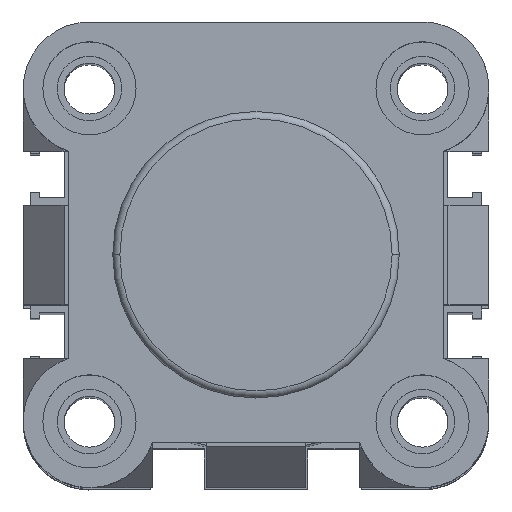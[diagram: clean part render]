
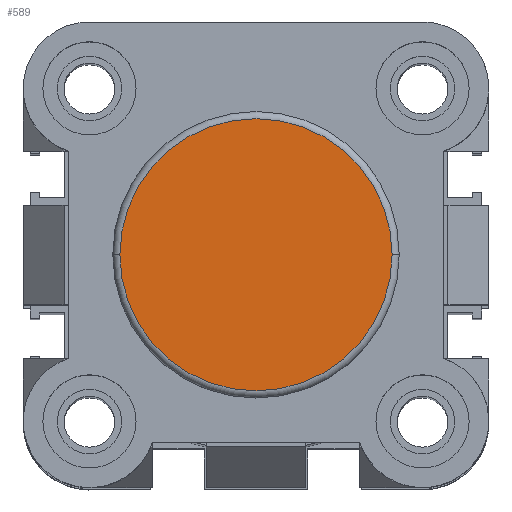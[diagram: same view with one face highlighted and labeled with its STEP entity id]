
A CAD part, top view. The second image highlights one B-rep face of the part: STEP entity #589.
In plain terms, the highlighted planar face has unit normal (0, 0, 1).
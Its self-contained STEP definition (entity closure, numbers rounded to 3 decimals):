
#589 = ADVANCED_FACE ( 'NONE', ( #7373 ), #12430, .T. ) ;
#852 = VERTEX_POINT ( 'NONE', #1106 ) ;
#1106 = CARTESIAN_POINT ( 'NONE',  ( 51.5, 32.5, 34. ) ) ;
#3745 = CARTESIAN_POINT ( 'NONE',  ( 32.5, 32.5, 34. ) ) ;
#3896 = CARTESIAN_POINT ( 'NONE',  ( 32.5, 32.5, 34. ) ) ;
#4125 = ORIENTED_EDGE ( 'NONE', *, *, #16045, .T. ) ;
#5662 = DIRECTION ( 'NONE',  ( 1., 0., 0. ) ) ;
#7373 = FACE_OUTER_BOUND ( 'NONE', #19399, .T. ) ;
#8821 = AXIS2_PLACEMENT_3D ( 'NONE', #3745, #17048, #5662 ) ;
#9364 = AXIS2_PLACEMENT_3D ( 'NONE', #3896, #21370, #23202 ) ;
#9562 = CIRCLE ( 'NONE', #8821, 19. ) ;
#10139 = EDGE_CURVE ( 'NONE', #852, #14707, #9562, .T. ) ;
#11665 = CARTESIAN_POINT ( 'NONE',  ( 13.5, 32.5, 34. ) ) ;
#12430 = PLANE ( 'NONE',  #15395 ) ;
#14066 = DIRECTION ( 'NONE',  ( 1., 0., 0. ) ) ;
#14707 = VERTEX_POINT ( 'NONE', #11665 ) ;
#15395 = AXIS2_PLACEMENT_3D ( 'NONE', #20086, #16080, #14066 ) ;
#16045 = EDGE_CURVE ( 'NONE', #14707, #852, #23701, .T. ) ;
#16080 = DIRECTION ( 'NONE',  ( 0., 0., 1. ) ) ;
#16610 = ORIENTED_EDGE ( 'NONE', *, *, #10139, .T. ) ;
#17048 = DIRECTION ( 'NONE',  ( 0., 0., 1. ) ) ;
#19399 = EDGE_LOOP ( 'NONE', ( #16610, #4125 ) ) ;
#20086 = CARTESIAN_POINT ( 'NONE',  ( 32.5, 32.5, 34. ) ) ;
#21370 = DIRECTION ( 'NONE',  ( 0., 0., 1. ) ) ;
#23202 = DIRECTION ( 'NONE',  ( 1., 0., 0. ) ) ;
#23701 = CIRCLE ( 'NONE', #9364, 19. ) ;
